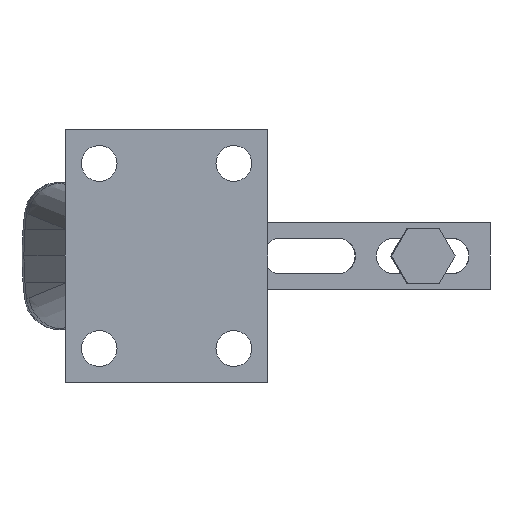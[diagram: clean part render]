
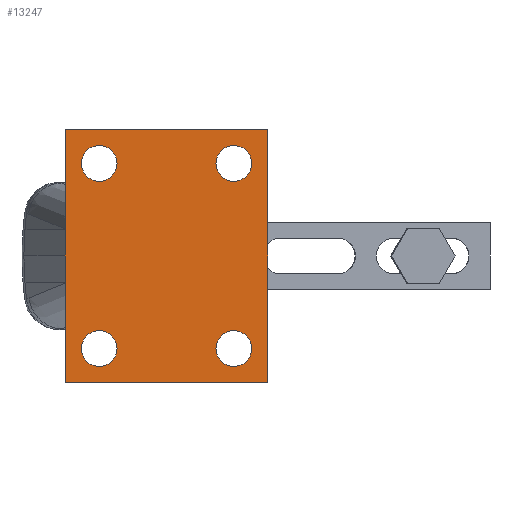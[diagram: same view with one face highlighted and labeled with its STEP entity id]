
A CAD part, front view. The second image highlights one B-rep face of the part: STEP entity #13247.
In plain terms, the highlighted planar face has unit normal (0, -1, 0).
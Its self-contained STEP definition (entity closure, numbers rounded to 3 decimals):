
#440 = CARTESIAN_POINT ( 'NONE',  ( 0., -17., -30. ) ) ;
#630 = DIRECTION ( 'NONE',  ( 0., 0., 1. ) ) ;
#758 = CARTESIAN_POINT ( 'NONE',  ( -8., -17., 26.25 ) ) ;
#777 = CARTESIAN_POINT ( 'NONE',  ( 0., -17., 30. ) ) ;
#1509 = LINE ( 'NONE', #25125, #15098 ) ;
#1618 = LINE ( 'NONE', #440, #12056 ) ;
#1634 = VERTEX_POINT ( 'NONE', #27736 ) ;
#1643 = DIRECTION ( 'NONE',  ( 0., 0., -1. ) ) ;
#1836 = ORIENTED_EDGE ( 'NONE', *, *, #6125, .T. ) ;
#2173 = AXIS2_PLACEMENT_3D ( 'NONE', #4890, #13753, #7162 ) ;
#2219 = CARTESIAN_POINT ( 'NONE',  ( -48., -17., 30. ) ) ;
#2398 = ORIENTED_EDGE ( 'NONE', *, *, #24397, .T. ) ;
#2438 = CARTESIAN_POINT ( 'NONE',  ( 0., -17., -30. ) ) ;
#2716 = DIRECTION ( 'NONE',  ( 0., 0., 1. ) ) ;
#2926 = EDGE_LOOP ( 'NONE', ( #20032, #3984 ) ) ;
#3056 = CIRCLE ( 'NONE', #18864, 4.25 ) ;
#3123 = CARTESIAN_POINT ( 'NONE',  ( -8., -17., -17.75 ) ) ;
#3984 = ORIENTED_EDGE ( 'NONE', *, *, #5197, .T. ) ;
#4141 = CARTESIAN_POINT ( 'NONE',  ( -40., -17., -17.75 ) ) ;
#4719 = DIRECTION ( 'NONE',  ( 0., 1., 0. ) ) ;
#4890 = CARTESIAN_POINT ( 'NONE',  ( -48., -17., 30. ) ) ;
#4998 = VERTEX_POINT ( 'NONE', #758 ) ;
#5019 = FACE_BOUND ( 'NONE', #16482, .T. ) ;
#5197 = EDGE_CURVE ( 'NONE', #15283, #5645, #11827, .T. ) ;
#5542 = CARTESIAN_POINT ( 'NONE',  ( -8., -17., 22. ) ) ;
#5628 = AXIS2_PLACEMENT_3D ( 'NONE', #9108, #24693, #11309 ) ;
#5645 = VERTEX_POINT ( 'NONE', #3123 ) ;
#6018 = DIRECTION ( 'NONE',  ( 0., 0., -1. ) ) ;
#6125 = EDGE_CURVE ( 'NONE', #15544, #25341, #22253, .T. ) ;
#7081 = ORIENTED_EDGE ( 'NONE', *, *, #19760, .T. ) ;
#7162 = DIRECTION ( 'NONE',  ( 0., 0., 1. ) ) ;
#7783 = DIRECTION ( 'NONE',  ( 0., 1., 0. ) ) ;
#7809 = DIRECTION ( 'NONE',  ( 0., 0., 1. ) ) ;
#7822 = VERTEX_POINT ( 'NONE', #4141 ) ;
#7848 = EDGE_LOOP ( 'NONE', ( #21288, #21015 ) ) ;
#7915 = EDGE_CURVE ( 'NONE', #12214, #1634, #13157, .T. ) ;
#8092 = VERTEX_POINT ( 'NONE', #777 ) ;
#8402 = CARTESIAN_POINT ( 'NONE',  ( -8., -17., 17.75 ) ) ;
#8676 = VERTEX_POINT ( 'NONE', #23919 ) ;
#9108 = CARTESIAN_POINT ( 'NONE',  ( -40., -17., 22. ) ) ;
#10190 = EDGE_CURVE ( 'NONE', #5645, #15283, #28103, .T. ) ;
#10212 = FACE_BOUND ( 'NONE', #7848, .T. ) ;
#10274 = EDGE_CURVE ( 'NONE', #8092, #15544, #16199, .T. ) ;
#10404 = VECTOR ( 'NONE', #6018, 1000. ) ;
#10592 = CARTESIAN_POINT ( 'NONE',  ( -40., -17., -22. ) ) ;
#10899 = EDGE_LOOP ( 'NONE', ( #1836, #15682, #28549, #25568 ) ) ;
#11278 = ORIENTED_EDGE ( 'NONE', *, *, #26134, .T. ) ;
#11309 = DIRECTION ( 'NONE',  ( 0., 0., -1. ) ) ;
#11744 = DIRECTION ( 'NONE',  ( 1., 0., 0. ) ) ;
#11827 = CIRCLE ( 'NONE', #17601, 4.25 ) ;
#12056 = VECTOR ( 'NONE', #2716, 1000. ) ;
#12103 = CARTESIAN_POINT ( 'NONE',  ( -8., -17., 22. ) ) ;
#12126 = CARTESIAN_POINT ( 'NONE',  ( -8., -17., -26.25 ) ) ;
#12214 = VERTEX_POINT ( 'NONE', #23453 ) ;
#12851 = DIRECTION ( 'NONE',  ( 0., 0., 1. ) ) ;
#13157 = CIRCLE ( 'NONE', #5628, 4.25 ) ;
#13247 = ADVANCED_FACE ( 'NONE', ( #10212, #5019, #21338, #27328, #15434 ), #18156, .F. ) ;
#13753 = DIRECTION ( 'NONE',  ( 0., 1., 0. ) ) ;
#14012 = DIRECTION ( 'NONE',  ( 0., 1., 0. ) ) ;
#14365 = DIRECTION ( 'NONE',  ( 0., 0., 1. ) ) ;
#14994 = DIRECTION ( 'NONE',  ( 0., 1., 0. ) ) ;
#15098 = VECTOR ( 'NONE', #11744, 1000. ) ;
#15112 = EDGE_CURVE ( 'NONE', #25341, #25642, #1509, .T. ) ;
#15283 = VERTEX_POINT ( 'NONE', #12126 ) ;
#15434 = FACE_OUTER_BOUND ( 'NONE', #10899, .T. ) ;
#15460 = AXIS2_PLACEMENT_3D ( 'NONE', #27370, #14012, #630 ) ;
#15465 = CIRCLE ( 'NONE', #15460, 4.25 ) ;
#15495 = AXIS2_PLACEMENT_3D ( 'NONE', #10592, #26207, #12851 ) ;
#15544 = VERTEX_POINT ( 'NONE', #2219 ) ;
#15682 = ORIENTED_EDGE ( 'NONE', *, *, #15112, .T. ) ;
#16199 = LINE ( 'NONE', #23497, #27413 ) ;
#16433 = CIRCLE ( 'NONE', #15495, 4.25 ) ;
#16482 = EDGE_LOOP ( 'NONE', ( #7081, #11278 ) ) ;
#16589 = AXIS2_PLACEMENT_3D ( 'NONE', #12103, #27724, #14365 ) ;
#17601 = AXIS2_PLACEMENT_3D ( 'NONE', #28359, #14994, #1643 ) ;
#17939 = VERTEX_POINT ( 'NONE', #8402 ) ;
#17984 = CARTESIAN_POINT ( 'NONE',  ( -40., -17., 22. ) ) ;
#18156 = PLANE ( 'NONE',  #2173 ) ;
#18864 = AXIS2_PLACEMENT_3D ( 'NONE', #5542, #21063, #7809 ) ;
#19043 = DIRECTION ( 'NONE',  ( -1., 0., 0. ) ) ;
#19601 = CIRCLE ( 'NONE', #24863, 4.25 ) ;
#19760 = EDGE_CURVE ( 'NONE', #4998, #17939, #3056, .T. ) ;
#20032 = ORIENTED_EDGE ( 'NONE', *, *, #10190, .T. ) ;
#20227 = DIRECTION ( 'NONE',  ( 0., 0., -1. ) ) ;
#20886 = EDGE_CURVE ( 'NONE', #25642, #8092, #1618, .T. ) ;
#21015 = ORIENTED_EDGE ( 'NONE', *, *, #25154, .T. ) ;
#21042 = CARTESIAN_POINT ( 'NONE',  ( -8., -17., -22. ) ) ;
#21063 = DIRECTION ( 'NONE',  ( 0., 1., 0. ) ) ;
#21288 = ORIENTED_EDGE ( 'NONE', *, *, #7915, .T. ) ;
#21338 = FACE_BOUND ( 'NONE', #2926, .T. ) ;
#22253 = LINE ( 'NONE', #23600, #10404 ) ;
#23312 = DIRECTION ( 'NONE',  ( 0., 0., -1. ) ) ;
#23453 = CARTESIAN_POINT ( 'NONE',  ( -40., -17., 26.25 ) ) ;
#23455 = CIRCLE ( 'NONE', #16589, 4.25 ) ;
#23497 = CARTESIAN_POINT ( 'NONE',  ( -48., -17., 30. ) ) ;
#23600 = CARTESIAN_POINT ( 'NONE',  ( -48., -17., -30. ) ) ;
#23919 = CARTESIAN_POINT ( 'NONE',  ( -40., -17., -26.25 ) ) ;
#24117 = AXIS2_PLACEMENT_3D ( 'NONE', #21042, #7783, #23312 ) ;
#24397 = EDGE_CURVE ( 'NONE', #7822, #8676, #15465, .T. ) ;
#24693 = DIRECTION ( 'NONE',  ( 0., 1., 0. ) ) ;
#24863 = AXIS2_PLACEMENT_3D ( 'NONE', #17984, #4719, #20227 ) ;
#25125 = CARTESIAN_POINT ( 'NONE',  ( -48., -17., -30. ) ) ;
#25154 = EDGE_CURVE ( 'NONE', #1634, #12214, #19601, .T. ) ;
#25341 = VERTEX_POINT ( 'NONE', #28471 ) ;
#25483 = EDGE_LOOP ( 'NONE', ( #2398, #28089 ) ) ;
#25568 = ORIENTED_EDGE ( 'NONE', *, *, #10274, .T. ) ;
#25642 = VERTEX_POINT ( 'NONE', #2438 ) ;
#26134 = EDGE_CURVE ( 'NONE', #17939, #4998, #23455, .T. ) ;
#26207 = DIRECTION ( 'NONE',  ( 0., 1., 0. ) ) ;
#26740 = EDGE_CURVE ( 'NONE', #8676, #7822, #16433, .T. ) ;
#27328 = FACE_BOUND ( 'NONE', #25483, .T. ) ;
#27370 = CARTESIAN_POINT ( 'NONE',  ( -40., -17., -22. ) ) ;
#27413 = VECTOR ( 'NONE', #19043, 1000. ) ;
#27724 = DIRECTION ( 'NONE',  ( 0., 1., 0. ) ) ;
#27736 = CARTESIAN_POINT ( 'NONE',  ( -40., -17., 17.75 ) ) ;
#28089 = ORIENTED_EDGE ( 'NONE', *, *, #26740, .T. ) ;
#28103 = CIRCLE ( 'NONE', #24117, 4.25 ) ;
#28359 = CARTESIAN_POINT ( 'NONE',  ( -8., -17., -22. ) ) ;
#28471 = CARTESIAN_POINT ( 'NONE',  ( -48., -17., -30. ) ) ;
#28549 = ORIENTED_EDGE ( 'NONE', *, *, #20886, .T. ) ;
